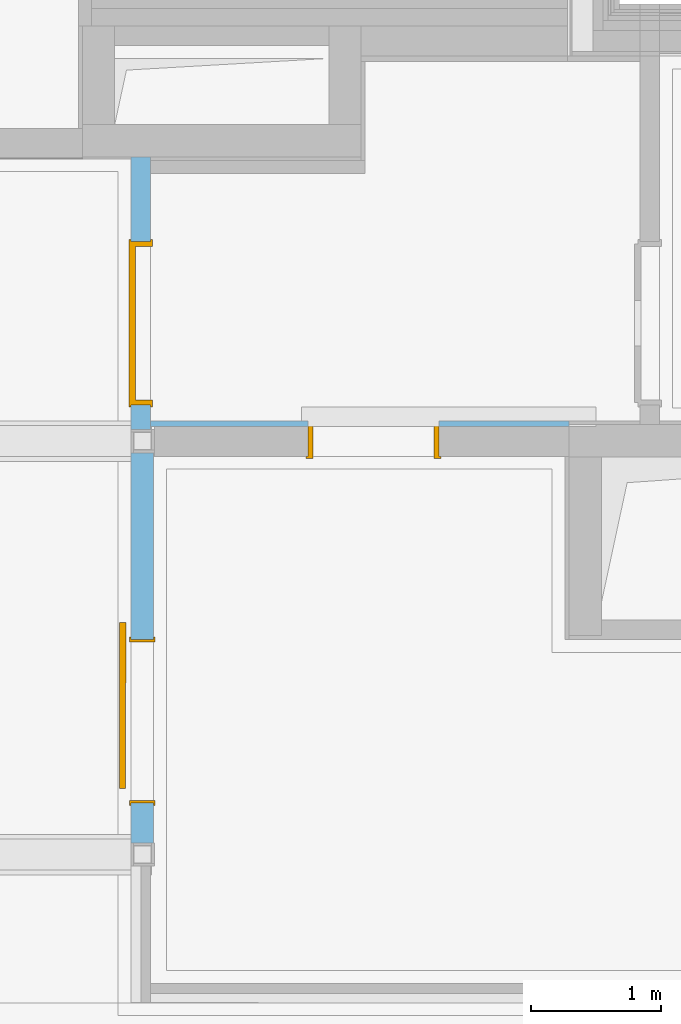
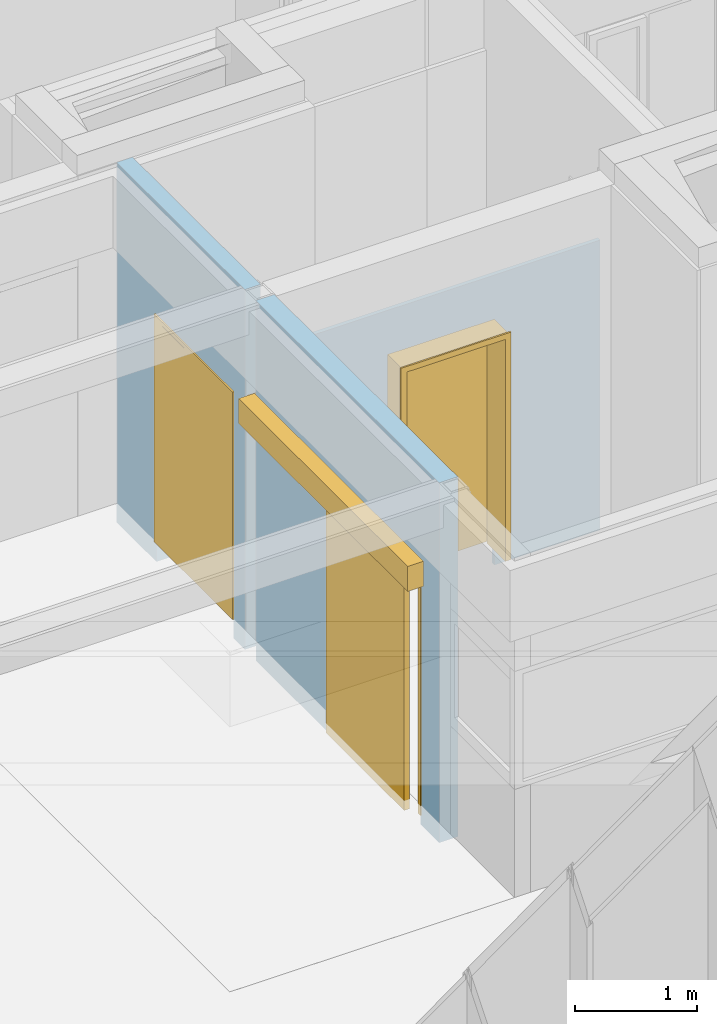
# One storey, part 91 of 207: 3 doors, 3 openings, plus 3 elements that do not belong to this part.
"""IFC4 building model written with IfcOpenShell, lengths in metres."""

from ifc_helpers import new_model, entity, si_unit, converted_unit, derived_unit, frame, frame_2d, origin, origin_with_axes, place, context, subcontext, project, spatial, polyline, rectangle, outline, extrude, faceted_brep, source, transform, mapped, material, type_object, element, fill, save


model = new_model("IFC4")

# Units and contexts
model_context = context("Model", 3, precision=1e-05, world=origin())
body_context = subcontext(model_context, "Body", "Model", "MODEL_VIEW")
ifc_project = project(units=[si_unit("LENGTHUNIT", "METRE"), si_unit("AREAUNIT", "SQUARE_METRE"), si_unit("VOLUMEUNIT", "CUBIC_METRE"), si_unit("MASSUNIT", "GRAM", prefix="KILO"), converted_unit("PLANEANGLEUNIT", "DEGREE", entity("IfcPlaneAngleMeasure", 0.0174532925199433), si_unit("PLANEANGLEUNIT", "RADIAN"), dimensions=[0, 0, 0, 0, 0, 0, 0]), derived_unit("THERMALTRANSMITTANCEUNIT", [(si_unit("POWERUNIT", "WATT"), 1), (si_unit("THERMODYNAMICTEMPERATUREUNIT", "KELVIN"), -1), (si_unit("LENGTHUNIT", "METRE"), -2)]), derived_unit("VOLUMETRICFLOWRATEUNIT", [(si_unit("LENGTHUNIT", "METRE"), 3), (converted_unit("TIMEUNIT", "hour", entity("IfcTimeMeasure", 3600.0), si_unit("TIMEUNIT", "SECOND"), dimensions=[0, 0, 1, 0, 0, 0, 0]), -1), (si_unit("LENGTHUNIT", "METRE"), -1)])], contexts=[model_context])

# Site, building, storey
site_placement = place(None, origin())
site = spatial("IfcSite", under=ifc_project, at=site_placement, Name="Psychiatrie Neubau Wunstorf", CompositionType="ELEMENT")
building_placement = place(site_placement, origin())
building = spatial("IfcBuilding", under=site, at=building_placement, Name="Neubau H2 Stationsgebäude", CompositionType="ELEMENT")
storey_placement = place(building_placement, frame((0.0, 0.0, -0.2)))
storey = spatial("IfcBuildingStorey", under=building, at=storey_placement, Name="H2 Ebene 0", CompositionType="ELEMENT", Elevation=-0.2)

# Wall, opening, door
ifc_material_1 = material(Name="WI-LB")
wall_1_placement = place(storey_placement, frame((40.5749975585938, 9.33499624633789, 0.0), z_axis=(0.0, 0.0, 1.0), x_axis=(0.0, -1.0, 0.0)))
wall_1 = element("IfcWall", 1, at=wall_1_placement, inside=storey, material=ifc_material_1, context=body_context, shape_type="SweptSolid", body=[
    extrude(rectangle(XDim=2.09849655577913, YDim=0.15, at=frame_2d((1.04924827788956, 0.075), x_axis=(1.0, 0.0))), origin_with_axes(), (0.0, 0.0, 1.0), 3.6),
])
opening_1_placement = place(wall_1_placement, frame((1.90999655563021, 0.149999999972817, 0.0), z_axis=(3.66223199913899e-12, -1.0, 0.0), x_axis=(0.0, 0.0, 1.0)))
opening_1 = element("IfcOpeningElement", 2, at=opening_1_placement, cuts=wall_1, Name="Türöffnung", ObjectType="Opening", context=body_context, shape_type="SweptSolid", body=[
    extrude(outline(polyline([(2.46, 1.26), (2.46, 0.0), (0.0, 0.0), (0.0, 1.26), (2.46, 1.26)])), origin_with_axes(), (0.0, 0.0, 1.0), 0.15),
])
ifc_material_2 = material(Name="TI-1F-UZ-ZK")
door_type_1 = type_object("IfcDoorType", Name="SMT", OperationType="SINGLE_SWING_RIGHT", ParameterTakesPrecedence=False, PredefinedType="DOOR")
shared_shape_1 = source(origin_with_axes(), body_context, "Body", "Brep", [
    faceted_brep([(-0.0775000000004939, 0.0250000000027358, 0.0), (-0.027500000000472, 0.0250000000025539, 0.0), (-0.0275000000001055, 0.125000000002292, 0.0), (-0.0775000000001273, 0.125000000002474, 0.0), (-0.0775000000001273, 0.125000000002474, 3.55), (-0.0275000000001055, 0.125000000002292, 3.55), (-0.027500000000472, 0.0250000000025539, 3.55), (-0.0775000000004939, 0.0250000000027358, 3.55)], [[[0, 1, 2, 3]], [[4, 5, 6, 7]], [[3, 4, 7, 0]], [[2, 5, 4, 3]], [[1, 6, 5, 2]], [[0, 7, 6, 1]]], orient=[[False], [False], [False], [False], [False], [False]]),
    faceted_brep([(1.2875000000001, 0.0249999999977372, 0.0), (1.33750000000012, 0.0249999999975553, 0.0), (1.33750000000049, 0.124999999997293, 0.0), (1.28750000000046, 0.124999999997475, 0.0), (1.28750000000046, 0.124999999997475, 3.55), (1.33750000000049, 0.124999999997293, 3.55), (1.33750000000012, 0.0249999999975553, 3.55), (1.2875000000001, 0.0249999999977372, 3.55)], [[[0, 1, 2, 3]], [[4, 5, 6, 7]], [[3, 4, 7, 0]], [[2, 5, 4, 3]], [[1, 6, 5, 2]], [[0, 7, 6, 1]]], orient=[[False], [False], [False], [False], [False], [False]]),
    faceted_brep([(-1.35750000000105, 0.0250000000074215, 2.4875), (1.2875000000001, 0.0249999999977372, 2.4875), (1.28750000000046, 0.124999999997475, 2.4875), (-1.35750000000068, 0.12500000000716, 2.4875), (-1.35750000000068, 0.12500000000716, 2.5375), (1.28750000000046, 0.124999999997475, 2.5375), (1.2875000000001, 0.0249999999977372, 2.5375), (-1.35750000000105, 0.0250000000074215, 2.5375)], [[[0, 1, 2, 3]], [[4, 5, 6, 7]], [[3, 4, 7, 0]], [[2, 5, 4, 3]], [[1, 6, 5, 2]], [[0, 7, 6, 1]]], orient=[[False], [False], [False], [False], [False], [False]]),
])
shared_shape_2 = source(origin_with_axes(), body_context, "Body", "Brep", [
    faceted_brep([(0.0, -0.0149999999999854, 2.46), (0.039999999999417, -0.015000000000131, 2.46), (0.039999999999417, -0.015000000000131, 0.2), (0.0, -0.0149999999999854, 0.2), (0.0, 0.165000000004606, 0.2), (0.0400000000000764, 0.16500000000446, 0.2), (0.0400000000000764, 0.165000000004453, 2.46), (0.0, 0.165000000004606, 2.46)], [[[0, 1, 2, 3]], [[4, 5, 6, 7]], [[3, 4, 7, 0]], [[2, 5, 4, 3]], [[1, 6, 5, 2]], [[0, 7, 6, 1]]], orient=[[False], [False], [False], [False], [False], [False]]),
    faceted_brep([(0.0, -0.0149999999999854, 2.475), (0.0, -0.0149999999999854, 0.2), (-0.0150000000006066, -0.0149999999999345, 0.2), (-0.0150000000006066, -0.0149999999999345, 2.475), (0.0, 0.0, 0.2), (0.0, 0.0, 2.475), (-0.0150000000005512, 0.0, 2.475), (-0.0150000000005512, 0.0, 0.2)], [[[0, 1, 2, 3]], [[4, 5, 6, 7]], [[1, 0, 5, 4]], [[2, 1, 4, 7]], [[3, 2, 7, 6]], [[0, 3, 6, 5]]], orient=[[False], [False], [False], [False], [False], [False]]),
    faceted_brep([(0.0, 0.15000000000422, 2.475), (0.0, 0.15000000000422, 0.2), (-0.0150000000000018, 0.150000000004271, 0.2), (-0.0150000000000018, 0.150000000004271, 2.475), (0.0, 0.165000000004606, 0.2), (0.0, 0.165000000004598, 2.475), (-0.0149999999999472, 0.165000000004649, 2.475), (-0.0149999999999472, 0.165000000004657, 0.2)], [[[0, 1, 2, 3]], [[4, 5, 6, 7]], [[1, 0, 5, 4]], [[2, 1, 4, 7]], [[3, 2, 7, 6]], [[0, 3, 6, 5]]], orient=[[False], [False], [False], [False], [False], [False]]),
    faceted_brep([(1.21999999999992, -0.0150000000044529, 2.46), (1.25999999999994, -0.0150000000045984, 2.46), (1.25999999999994, -0.0150000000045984, 0.2), (1.21999999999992, -0.0150000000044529, 0.2), (1.22000000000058, 0.165000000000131, 0.2), (1.26000000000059, 0.164999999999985, 0.2), (1.26000000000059, 0.164999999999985, 2.46), (1.22000000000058, 0.165000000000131, 2.46)], [[[0, 1, 2, 3]], [[4, 5, 6, 7]], [[3, 4, 7, 0]], [[2, 5, 4, 3]], [[1, 6, 5, 2]], [[0, 7, 6, 1]]], orient=[[False], [False], [False], [False], [False], [False]]),
    faceted_brep([(1.25999999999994, -0.0150000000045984, 2.475), (1.27499999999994, -0.0150000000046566, 2.475), (1.27499999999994, -0.0150000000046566, 0.2), (1.25999999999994, -0.0150000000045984, 0.2), (1.25999999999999, 0.0, 0.2), (1.275, 0.0, 0.2), (1.275, 0.0, 2.475), (1.25999999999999, 0.0, 2.475)], [[[0, 1, 2, 3]], [[4, 5, 6, 7]], [[3, 4, 7, 0]], [[2, 5, 4, 3]], [[1, 6, 5, 2]], [[0, 7, 6, 1]]], orient=[[False], [False], [False], [False], [False], [False]]),
    faceted_brep([(1.26000000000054, 0.149999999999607, 2.475), (1.27500000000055, 0.149999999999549, 2.475), (1.27500000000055, 0.149999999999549, 0.2), (1.26000000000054, 0.149999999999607, 0.2), (1.26000000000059, 0.164999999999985, 0.2), (1.2750000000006, 0.164999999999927, 0.2), (1.2750000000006, 0.164999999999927, 2.475), (1.26000000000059, 0.164999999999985, 2.475)], [[[0, 1, 2, 3]], [[4, 5, 6, 7]], [[3, 4, 7, 0]], [[2, 5, 4, 3]], [[1, 6, 5, 2]], [[0, 7, 6, 1]]], orient=[[False], [False], [False], [False], [False], [False]]),
    faceted_brep([(0.039999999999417, -0.015000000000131, 2.46), (1.21999999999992, -0.0150000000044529, 2.46), (1.21999999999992, -0.0150000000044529, 2.42), (0.039999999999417, -0.015000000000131, 2.42), (0.0400000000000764, 0.165000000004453, 2.42), (1.22000000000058, 0.165000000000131, 2.42), (1.22000000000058, 0.165000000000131, 2.46), (0.0400000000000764, 0.165000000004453, 2.46)], [[[0, 1, 2, 3]], [[4, 5, 6, 7]], [[3, 4, 7, 0]], [[2, 5, 4, 3]], [[1, 6, 5, 2]], [[0, 7, 6, 1]]], orient=[[False], [False], [False], [False], [False], [False]]),
    faceted_brep([(0.0, -0.0149999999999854, 2.475), (1.25999999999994, -0.0150000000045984, 2.475), (1.25999999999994, -0.0150000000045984, 2.46), (0.0, -0.0149999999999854, 2.46), (0.0, 0.0, 2.46), (1.25999999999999, 0.0, 2.46), (1.25999999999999, 0.0, 2.475), (0.0, 0.0, 2.475)], [[[0, 1, 2, 3]], [[4, 5, 6, 7]], [[3, 4, 7, 0]], [[2, 5, 4, 3]], [[1, 6, 5, 2]], [[0, 7, 6, 1]]], orient=[[False], [False], [False], [False], [False], [False]]),
    faceted_brep([(0.0, 0.15000000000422, 2.475), (1.26000000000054, 0.149999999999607, 2.475), (1.26000000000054, 0.149999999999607, 2.46), (0.0, 0.15000000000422, 2.46), (0.0, 0.165000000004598, 2.46), (1.26000000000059, 0.164999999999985, 2.46), (1.26000000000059, 0.164999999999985, 2.475), (0.0, 0.165000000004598, 2.475)], [[[0, 1, 2, 3]], [[4, 5, 6, 7]], [[3, 4, 7, 0]], [[2, 5, 4, 3]], [[1, 6, 5, 2]], [[0, 7, 6, 1]]], orient=[[False], [False], [False], [False], [False], [False]]),
    faceted_brep([(0.0249999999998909, 0.11600000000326, 2.435), (1.2350000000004, 0.115999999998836, 2.435), (1.2350000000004, 0.115999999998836, 0.2), (0.0249999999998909, 0.11600000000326, 0.2), (0.0250000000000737, 0.166000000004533, 0.2), (1.23500000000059, 0.166000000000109, 0.2), (1.23500000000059, 0.166000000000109, 2.435), (0.0250000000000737, 0.166000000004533, 2.435)], [[[0, 1, 2, 3]], [[4, 5, 6, 7]], [[3, 4, 7, 0]], [[2, 5, 4, 3]], [[1, 6, 5, 2]], [[0, 7, 6, 1]]], orient=[[False], [False], [False], [False], [False], [False]]),
])
door_1_placement = place(opening_1_placement, frame((0.0, 0.0, 0.0), z_axis=(1.0, 0.0, 0.0), x_axis=(0.0, 1.0, -1.15491390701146e-15)))
door_1 = element("IfcDoor", 3, at=door_1_placement, inside=storey, type_object=door_type_1, material=ifc_material_2, Name="SMT", OverallHeight=2.46, OverallWidth=1.26, context=body_context, shape_type="MappedRepresentation", body=[
    mapped(shared_shape_1, transform((0.0, 0.0, 0.0), x_axis=(1.0, 0.0, 0.0), y_axis=(0.0, 1.0, 0.0), z_axis=(0.0, 0.0, 1.0), scale=1.0)),
    mapped(shared_shape_2, transform((0.0, 0.0, 0.0), x_axis=(1.0, 0.0, 0.0), y_axis=(0.0, 1.0, 0.0), z_axis=(0.0, 0.0, 1.0), scale=1.0)),
])
fill(opening_1, door_1)

ifc_material_3 = material(Name="WI-LB")
wall_2_placement = place(storey_placement, frame((43.9500000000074, 7.29999969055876, 0.0), z_axis=(0.0, 0.0, 1.0), x_axis=(-1.0, 0.0, 0.0)))
wall_2 = element("IfcWall", 4, at=wall_2_placement, inside=storey, material=ifc_material_3, context=body_context, shape_type="SweptSolid", body=[
    extrude(rectangle(XDim=3.2250024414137, YDim=0.04, at=frame_2d((1.61250122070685, 0.02), x_axis=(1.0, 0.0))), origin_with_axes(), (0.0, 0.0, 1.0), 2.9),
])
opening_2_placement = place(wall_2_placement, frame((1.0, 0.0, 0.0), z_axis=(0.0, 1.0, 0.0), x_axis=(0.0, 0.0, 1.0)))
opening_2 = element("IfcOpeningElement", 5, at=opening_2_placement, cuts=wall_2, Name="Türöffnung", ObjectType="Opening", context=body_context, shape_type="SweptSolid", body=[
    extrude(outline(polyline([(2.46, 1.01), (2.46, 0.0), (0.0, 0.0), (0.0, 1.01), (2.46, 1.01)])), origin_with_axes(), (0.0, 0.0, 1.0), 0.04),
])
ifc_material_4 = material(Name="TI-1F-UZ-ZK")
door_type_2 = type_object("IfcDoorType", Name="SMT", OperationType="SLIDING_TO_RIGHT", ParameterTakesPrecedence=False, PredefinedType="DOOR")
shared_shape_3 = source(origin_with_axes(), body_context, "Body", "Brep", [
    faceted_brep([(1.01, -0.015, 2.46), (1.01, -0.015, 0.2), (0.97, -0.015, 0.2), (0.97, -0.015, 2.46), (1.01, 0.287, 0.2), (1.01, 0.287, 2.46), (0.97, 0.287, 2.46), (0.97, 0.287, 0.2)], [[[0, 1, 2, 3]], [[4, 5, 6, 7]], [[1, 0, 5, 4]], [[2, 1, 4, 7]], [[3, 2, 7, 6]], [[0, 3, 6, 5]]], orient=[[False], [False], [False], [False], [False], [False]]),
    faceted_brep([(1.01, -0.015, 2.475), (1.025, -0.015, 2.475), (1.025, -0.015, 0.2), (1.01, -0.015, 0.2), (1.01, 0.0, 0.2), (1.025, 0.0, 0.2), (1.025, 0.0, 2.475), (1.01, 0.0, 2.475)], [[[0, 1, 2, 3]], [[4, 5, 6, 7]], [[3, 4, 7, 0]], [[2, 5, 4, 3]], [[1, 6, 5, 2]], [[0, 7, 6, 1]]], orient=[[False], [False], [False], [False], [False], [False]]),
    faceted_brep([(1.01, 0.272, 2.475), (1.025, 0.272, 2.475), (1.025, 0.272, 0.2), (1.01, 0.272, 0.2), (1.01, 0.287, 0.2), (1.025, 0.287, 0.2), (1.025, 0.287, 2.475), (1.01, 0.287, 2.475)], [[[0, 1, 2, 3]], [[4, 5, 6, 7]], [[3, 4, 7, 0]], [[2, 5, 4, 3]], [[1, 6, 5, 2]], [[0, 7, 6, 1]]], orient=[[False], [False], [False], [False], [False], [False]]),
    faceted_brep([(0.04, -0.015, 2.46), (0.04, -0.015, 0.2), (0.0, -0.015, 0.2), (0.0, -0.015, 2.46), (0.04, 0.287, 0.2), (0.04, 0.287, 2.46), (0.0, 0.287, 2.46), (0.0, 0.287, 0.2)], [[[0, 1, 2, 3]], [[4, 5, 6, 7]], [[1, 0, 5, 4]], [[2, 1, 4, 7]], [[3, 2, 7, 6]], [[0, 3, 6, 5]]], orient=[[False], [False], [False], [False], [False], [False]]),
    faceted_brep([(0.0, -0.015, 2.475), (0.0, -0.015, 0.2), (-0.015, -0.015, 0.2), (-0.015, -0.015, 2.475), (0.0, 0.0, 0.2), (0.0, 0.0, 2.475), (-0.015, 0.0, 2.475), (-0.015, 0.0, 0.2)], [[[0, 1, 2, 3]], [[4, 5, 6, 7]], [[1, 0, 5, 4]], [[2, 1, 4, 7]], [[3, 2, 7, 6]], [[0, 3, 6, 5]]], orient=[[False], [False], [False], [False], [False], [False]]),
    faceted_brep([(0.0, 0.272, 2.475), (0.0, 0.272, 0.2), (-0.015, 0.272, 0.2), (-0.015, 0.272, 2.475), (0.0, 0.287, 0.2), (0.0, 0.287, 2.475), (-0.015, 0.287, 2.475), (-0.015, 0.287, 0.2)], [[[0, 1, 2, 3]], [[4, 5, 6, 7]], [[1, 0, 5, 4]], [[2, 1, 4, 7]], [[3, 2, 7, 6]], [[0, 3, 6, 5]]], orient=[[False], [False], [False], [False], [False], [False]]),
    faceted_brep([(0.97, -0.015, 2.46), (0.97, -0.015, 2.42), (0.04, -0.015, 2.42), (0.04, -0.015, 2.46), (0.97, 0.287, 2.42), (0.97, 0.287, 2.46), (0.04, 0.287, 2.46), (0.04, 0.287, 2.42)], [[[0, 1, 2, 3]], [[4, 5, 6, 7]], [[1, 0, 5, 4]], [[2, 1, 4, 7]], [[3, 2, 7, 6]], [[0, 3, 6, 5]]], orient=[[False], [False], [False], [False], [False], [False]]),
    faceted_brep([(1.01, -0.015, 2.475), (1.01, -0.015, 2.46), (0.0, -0.015, 2.46), (0.0, -0.015, 2.475), (1.01, 0.0, 2.46), (1.01, 0.0, 2.475), (0.0, 0.0, 2.475), (0.0, 0.0, 2.46)], [[[0, 1, 2, 3]], [[4, 5, 6, 7]], [[1, 0, 5, 4]], [[2, 1, 4, 7]], [[3, 2, 7, 6]], [[0, 3, 6, 5]]], orient=[[False], [False], [False], [False], [False], [False]]),
    faceted_brep([(1.01, 0.272, 2.475), (1.01, 0.272, 2.46), (0.0, 0.272, 2.46), (0.0, 0.272, 2.475), (1.01, 0.287, 2.46), (1.01, 0.287, 2.475), (0.0, 0.287, 2.475), (0.0, 0.287, 2.46)], [[[0, 1, 2, 3]], [[4, 5, 6, 7]], [[1, 0, 5, 4]], [[2, 1, 4, 7]], [[3, 2, 7, 6]], [[0, 3, 6, 5]]], orient=[[False], [False], [False], [False], [False], [False]]),
    faceted_brep([(0.985, -0.085, 2.435), (0.985, -0.085, 0.2), (0.025, -0.085, 0.2), (0.025, -0.085, 2.435), (0.985, -0.035, 0.2), (0.985, -0.035, 2.435), (0.025, -0.035, 2.435), (0.025, -0.035, 0.2)], [[[0, 1, 2, 3]], [[4, 5, 6, 7]], [[1, 0, 5, 4]], [[2, 1, 4, 7]], [[3, 2, 7, 6]], [[0, 3, 6, 5]]], orient=[[False], [False], [False], [False], [False], [False]]),
])
door_2_placement = place(opening_2_placement, frame((0.0, 0.0, 0.0), z_axis=(1.0, 0.0, 0.0), x_axis=(0.0, 1.0, 0.0)))
door_2 = element("IfcDoor", 6, at=door_2_placement, inside=storey, type_object=door_type_2, material=ifc_material_4, Name="SMT", OverallHeight=2.46, OverallWidth=1.01, context=body_context, shape_type="MappedRepresentation", body=[
    mapped(shared_shape_3, transform((0.0, 0.0, 0.0), x_axis=(1.0, 0.0, 0.0), y_axis=(0.0, 1.0, 0.0), z_axis=(0.0, 0.0, 1.0), scale=1.0)),
])
fill(opening_2, door_2)

ifc_material_5 = material(Name="WI-LB")
wall_3_placement = place(storey_placement, frame((40.575150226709, 7.05649962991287, 0.0), z_axis=(0.0, 0.0, 1.0), x_axis=(-5.07793044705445e-05, -0.999999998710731, 0.0)))
wall_3 = element("IfcWall", 7, at=wall_3_placement, inside=storey, material=ifc_material_5, context=body_context, shape_type="SweptSolid", body=[
    extrude(rectangle(XDim=3.00650268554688, YDim=0.174999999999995, at=frame_2d((1.50325134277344, 0.0874999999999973), x_axis=(1.0, 0.0))), origin_with_axes(), (0.0, 0.0, 1.0), 3.6),
])
opening_3_placement = place(wall_3_placement, frame((2.69899994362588, 0.175000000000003, 0.0), z_axis=(2.59855629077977e-15, -1.0, 0.0), x_axis=(0.0, 0.0, 1.0)))
opening_3 = element("IfcOpeningElement", 8, at=opening_3_placement, cuts=wall_3, Name="Türöffnung", ObjectType="Opening", context=body_context, shape_type="SweptSolid", body=[
    extrude(outline(polyline([(2.41, 1.26), (2.41, 0.0), (0.0, 0.0), (0.0, 1.26), (2.41, 1.26)])), origin_with_axes(), (0.0, 0.0, 1.0), 0.175000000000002),
])
ifc_material_6 = material(Name="TI-1F-UZ-ZK")
door_type_3 = type_object("IfcDoorType", Name="SMT", OperationType="SLIDING_TO_RIGHT", ParameterTakesPrecedence=False, PredefinedType="DOOR")
shared_shape_4 = source(origin_with_axes(), body_context, "Body", "Brep", [
    faceted_brep([(-0.0775000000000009, 0.157499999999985, 0.0), (-0.0775, 0.0574999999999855, 0.0), (-0.0275000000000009, 0.0574999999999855, 0.0), (-0.0275, 0.157499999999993, 0.0), (-0.0775, 0.0574999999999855, 3.55), (-0.0775000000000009, 0.157499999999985, 3.55), (-0.0275, 0.157499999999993, 3.55), (-0.0275000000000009, 0.0574999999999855, 3.55)], [[[0, 1, 2, 3]], [[4, 5, 6, 7]], [[1, 0, 5, 4]], [[2, 1, 4, 7]], [[3, 2, 7, 6]], [[0, 3, 6, 5]]], orient=[[False], [False], [False], [False], [False], [False]]),
    faceted_brep([(-1.4075, 0.157499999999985, 0.0), (-1.4075, 0.0574999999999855, 0.0), (-1.3575, 0.0574999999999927, 0.0), (-1.3575, 0.157499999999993, 0.0), (-1.4075, 0.0574999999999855, 3.55), (-1.4075, 0.157499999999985, 3.55), (-1.3575, 0.157499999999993, 3.55), (-1.3575, 0.0574999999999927, 3.55)], [[[0, 1, 2, 3]], [[4, 5, 6, 7]], [[1, 0, 5, 4]], [[2, 1, 4, 7]], [[3, 2, 7, 6]], [[0, 3, 6, 5]]], orient=[[False], [False], [False], [False], [False], [False]]),
    faceted_brep([(1.2875, 0.157499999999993, 0.0), (1.2875, 0.0574999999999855, 0.0), (1.3375, 0.0574999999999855, 0.0), (1.3375, 0.157499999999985, 0.0), (1.2875, 0.0574999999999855, 3.55), (1.2875, 0.157499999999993, 3.55), (1.3375, 0.157499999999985, 3.55), (1.3375, 0.0574999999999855, 3.55)], [[[0, 1, 2, 3]], [[4, 5, 6, 7]], [[1, 0, 5, 4]], [[2, 1, 4, 7]], [[3, 2, 7, 6]], [[0, 3, 6, 5]]], orient=[[False], [False], [False], [False], [False], [False]]),
    faceted_brep([(-1.3575, 0.157499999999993, 2.4375), (-1.3575, 0.0574999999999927, 2.4375), (1.2875, 0.0574999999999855, 2.4375), (1.2875, 0.157499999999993, 2.4375), (-1.3575, 0.0574999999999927, 2.4875), (-1.3575, 0.157499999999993, 2.4875), (1.2875, 0.157499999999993, 2.4875), (1.2875, 0.0574999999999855, 2.4875)], [[[0, 1, 2, 3]], [[4, 5, 6, 7]], [[1, 0, 5, 4]], [[2, 1, 4, 7]], [[3, 2, 7, 6]], [[0, 3, 6, 5]]], orient=[[False], [False], [False], [False], [False], [False]]),
])
shared_shape_5 = source(origin_with_axes(), body_context, "Body", "Brep", [
    faceted_brep([(1.31, -0.130000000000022, 2.41), (1.31, 0.0199999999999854, 2.41), (-1.46, 0.0199999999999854, 2.41), (-1.46, -0.130000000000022, 2.41), (1.31, 0.0199999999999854, 2.66), (1.31, -0.130000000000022, 2.66), (-1.46, -0.130000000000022, 2.66), (-1.46, 0.0199999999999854, 2.66)], [[[0, 1, 2, 3]], [[4, 5, 6, 7]], [[1, 0, 5, 4]], [[2, 1, 4, 7]], [[3, 2, 7, 6]], [[0, 3, 6, 5]]], orient=[[False], [False], [False], [False], [False], [False]]),
])
shared_shape_6 = source(origin_with_axes(), body_context, "Body", "Brep", [
    faceted_brep([(0.0, 0.204999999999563, 2.41), (0.0, 0.204999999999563, 0.1), (0.0200000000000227, 0.204999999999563, 0.1), (0.0200000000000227, 0.204999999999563, 2.41), (0.0, 0.0099999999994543, 0.1), (0.0, 0.0099999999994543, 2.41), (0.0200000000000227, 0.00999999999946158, 2.41), (0.0200000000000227, 0.00999999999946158, 0.1)], [[[0, 1, 2, 3]], [[4, 5, 6, 7]], [[1, 0, 5, 4]], [[2, 1, 4, 7]], [[3, 2, 7, 6]], [[0, 3, 6, 5]]], orient=[[False], [False], [False], [False], [False], [False]]),
    faceted_brep([(0.0, 0.204999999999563, 2.43), (-0.0199999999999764, 0.204999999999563, 2.43), (-0.0199999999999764, 0.204999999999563, 0.1), (0.0, 0.204999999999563, 0.1), (0.0, 0.194999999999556, 0.1), (-0.0199999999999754, 0.194999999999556, 0.1), (-0.0199999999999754, 0.194999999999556, 2.43), (0.0, 0.194999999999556, 2.43)], [[[0, 1, 2, 3]], [[4, 5, 6, 7]], [[3, 4, 7, 0]], [[2, 5, 4, 3]], [[1, 6, 5, 2]], [[0, 7, 6, 1]]], orient=[[False], [False], [False], [False], [False], [False]]),
    faceted_brep([(0.0, 0.0199999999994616, 2.43), (-0.0199999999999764, 0.0199999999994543, 2.43), (-0.0199999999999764, 0.0199999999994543, 0.1), (0.0, 0.0199999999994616, 0.1), (0.0, 0.0099999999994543, 0.1), (-0.0199999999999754, 0.0099999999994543, 0.1), (-0.0199999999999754, 0.0099999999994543, 2.43), (0.0, 0.0099999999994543, 2.43)], [[[0, 1, 2, 3]], [[4, 5, 6, 7]], [[3, 4, 7, 0]], [[2, 5, 4, 3]], [[1, 6, 5, 2]], [[0, 7, 6, 1]]], orient=[[False], [False], [False], [False], [False], [False]]),
    faceted_brep([(1.23999999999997, 0.204999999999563, 2.41), (1.23999999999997, 0.204999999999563, 0.1), (1.25999999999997, 0.204999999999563, 0.1), (1.25999999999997, 0.204999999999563, 2.41), (1.23999999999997, 0.0099999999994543, 0.1), (1.23999999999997, 0.00999999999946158, 2.41), (1.25999999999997, 0.0099999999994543, 2.41), (1.25999999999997, 0.0099999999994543, 0.1)], [[[0, 1, 2, 3]], [[4, 5, 6, 7]], [[1, 0, 5, 4]], [[2, 1, 4, 7]], [[3, 2, 7, 6]], [[0, 3, 6, 5]]], orient=[[False], [False], [False], [False], [False], [False]]),
    faceted_brep([(1.25999999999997, 0.204999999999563, 2.43), (1.25999999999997, 0.204999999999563, 0.1), (1.27999999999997, 0.204999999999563, 0.1), (1.27999999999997, 0.204999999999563, 2.43), (1.25999999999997, 0.194999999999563, 0.1), (1.25999999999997, 0.194999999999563, 2.43), (1.27999999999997, 0.194999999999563, 2.43), (1.27999999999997, 0.194999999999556, 0.1)], [[[0, 1, 2, 3]], [[4, 5, 6, 7]], [[1, 0, 5, 4]], [[2, 1, 4, 7]], [[3, 2, 7, 6]], [[0, 3, 6, 5]]], orient=[[False], [False], [False], [False], [False], [False]]),
    faceted_brep([(1.25999999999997, 0.0199999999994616, 2.43), (1.25999999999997, 0.0199999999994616, 0.1), (1.27999999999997, 0.0199999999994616, 0.1), (1.27999999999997, 0.0199999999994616, 2.43), (1.25999999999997, 0.0099999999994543, 0.1), (1.25999999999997, 0.0099999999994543, 2.43), (1.27999999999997, 0.0099999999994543, 2.43), (1.27999999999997, 0.0099999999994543, 0.1)], [[[0, 1, 2, 3]], [[4, 5, 6, 7]], [[1, 0, 5, 4]], [[2, 1, 4, 7]], [[3, 2, 7, 6]], [[0, 3, 6, 5]]], orient=[[False], [False], [False], [False], [False], [False]]),
    faceted_brep([(0.0200000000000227, 0.204999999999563, 2.41), (0.0200000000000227, 0.204999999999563, 2.385), (1.23999999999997, 0.204999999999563, 2.385), (1.23999999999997, 0.204999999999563, 2.41), (0.0200000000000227, 0.00999999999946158, 2.385), (0.0200000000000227, 0.00999999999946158, 2.41), (1.23999999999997, 0.00999999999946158, 2.41), (1.23999999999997, 0.00999999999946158, 2.385)], [[[0, 1, 2, 3]], [[4, 5, 6, 7]], [[1, 0, 5, 4]], [[2, 1, 4, 7]], [[3, 2, 7, 6]], [[0, 3, 6, 5]]], orient=[[False], [False], [False], [False], [False], [False]]),
    faceted_brep([(0.0, 0.204999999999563, 2.43), (0.0, 0.204999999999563, 2.41), (1.25999999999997, 0.204999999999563, 2.41), (1.25999999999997, 0.204999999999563, 2.43), (0.0, 0.194999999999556, 2.41), (0.0, 0.194999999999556, 2.43), (1.25999999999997, 0.194999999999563, 2.43), (1.25999999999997, 0.194999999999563, 2.41)], [[[0, 1, 2, 3]], [[4, 5, 6, 7]], [[1, 0, 5, 4]], [[2, 1, 4, 7]], [[3, 2, 7, 6]], [[0, 3, 6, 5]]], orient=[[False], [False], [False], [False], [False], [False]]),
    faceted_brep([(0.0, 0.0199999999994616, 2.43), (0.0, 0.0199999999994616, 2.41), (1.25999999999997, 0.0199999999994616, 2.41), (1.25999999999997, 0.0199999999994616, 2.43), (0.0, 0.0099999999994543, 2.41), (0.0, 0.0099999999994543, 2.43), (1.25999999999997, 0.0099999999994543, 2.43), (1.25999999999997, 0.0099999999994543, 2.41)], [[[0, 1, 2, 3]], [[4, 5, 6, 7]], [[1, 0, 5, 4]], [[2, 1, 4, 7]], [[3, 2, 7, 6]], [[0, 3, 6, 5]]], orient=[[False], [False], [False], [False], [False], [False]]),
    faceted_brep([(-0.131999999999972, -0.0200000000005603, 2.465), (-0.131999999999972, -0.0200000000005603, 0.1), (1.14799999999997, -0.0200000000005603, 0.1), (1.14799999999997, -0.0200000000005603, 2.465), (-0.131999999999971, -0.0700000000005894, 0.1), (-0.131999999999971, -0.0700000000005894, 2.465), (1.14799999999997, -0.0700000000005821, 2.465), (1.14799999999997, -0.0700000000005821, 0.1)], [[[0, 1, 2, 3]], [[4, 5, 6, 7]], [[1, 0, 5, 4]], [[2, 1, 4, 7]], [[3, 2, 7, 6]], [[0, 3, 6, 5]]], orient=[[False], [False], [False], [False], [False], [False]]),
])
door_3_placement = place(opening_3_placement, frame((0.0, 1.26, 0.194999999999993), z_axis=(1.0, 0.0, 0.0), x_axis=(0.0, -1.0, 1.27458129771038e-15)))
door_3 = element("IfcDoor", 9, at=door_3_placement, inside=storey, type_object=door_type_3, material=ifc_material_6, Name="SMT", OverallHeight=2.41, OverallWidth=1.26, context=body_context, shape_type="MappedRepresentation", body=[
    mapped(shared_shape_4, transform((0.0, 0.0, 0.0), x_axis=(1.0, 0.0, 0.0), y_axis=(0.0, 1.0, 0.0), z_axis=(0.0, 0.0, 1.0), scale=1.0)),
    mapped(shared_shape_5, transform((0.0, 0.0, 0.0), x_axis=(1.0, 0.0, 0.0), y_axis=(0.0, 1.0, 0.0), z_axis=(0.0, 0.0, 1.0), scale=1.0)),
    mapped(shared_shape_6, transform((0.0, 0.0, 0.0), x_axis=(1.0, 0.0, 0.0), y_axis=(0.0, 1.0, 0.0), z_axis=(0.0, 0.0, 1.0), scale=1.0)),
])
fill(opening_3, door_3)

save(model, "model.ifc")
